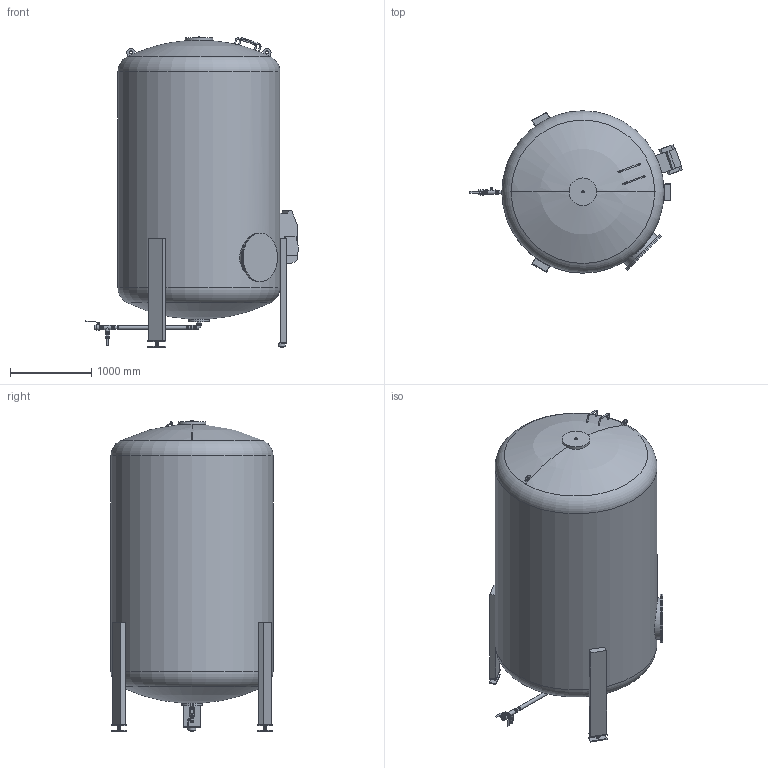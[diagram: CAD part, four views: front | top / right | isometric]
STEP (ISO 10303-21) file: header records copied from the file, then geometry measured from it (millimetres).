
FILE_DESCRIPTION(/* description */ (''),/* implementation_level */ '2;1');
FILE_NAME(/* name */ '\\dataserver\data\Flamco\3D-Modellen\Inventor\Flamcomat\2021_Flamcomat MK-U G4\flamcomat_mk-u_g4_10000_3.stp',/* time_stamp */ '2021-12-15T09:43:26+01:00',/* author */ ('kasius'),/* organization */ (''),/* preprocessor_version */ 'ST-DEVELOPER v17',/* originating_system */ 'Autodesk Inventor 2018',/* authorisation */ '');
FILE_SCHEMA (('AUTOMOTIVE_DESIGN { 1 0 10303 214 3 1 1 }'));
Length unit declared in the file: millimetre
Products named in the file (1): flamcomat_mk-u_g4_10000_3
Bounding box: 2620.21 x 2000 x 3830.09 mm (x, y, z)
Volume: 10099748004.5 mm3; surface area: 28307319.6 mm2
Topology: 8 solids, 8 shells, 340 faces, 881 edges, 612 vertices
Faces by surface type: plane 166, cylinder 84, cone 61, torus 24, sphere 5
Full cylindrical faces by diameter (mm): 9.5 x1, 12 x2, 16 x6, 18.3 x1, 18.331 x1, 20 x4, 21.939 x1, 25.4 x1, 26 x1, 28 x2, 30.032 x1, 30.289 x1, 32.99 x1, 34.594 x2, 36.906 x2, 37.998 x1, 38 x2, 40 x1, 40.768 x2, 41.7 x2, 43 x2, 44.85 x1, 44.999 x1, 45.999 x1, 46.1 x1, 46.845 x1, 47 x3, 48 x2, 48.008 x1, 48.3 x1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
Entity records: 11198 total; most frequent: CARTESIAN_POINT 2223, DIRECTION 1967, ORIENTED_EDGE 1762, EDGE_CURVE 881, AXIS2_PLACEMENT_3D 796, VERTEX_POINT 612, CIRCLE 455, EDGE_LOOP 399
